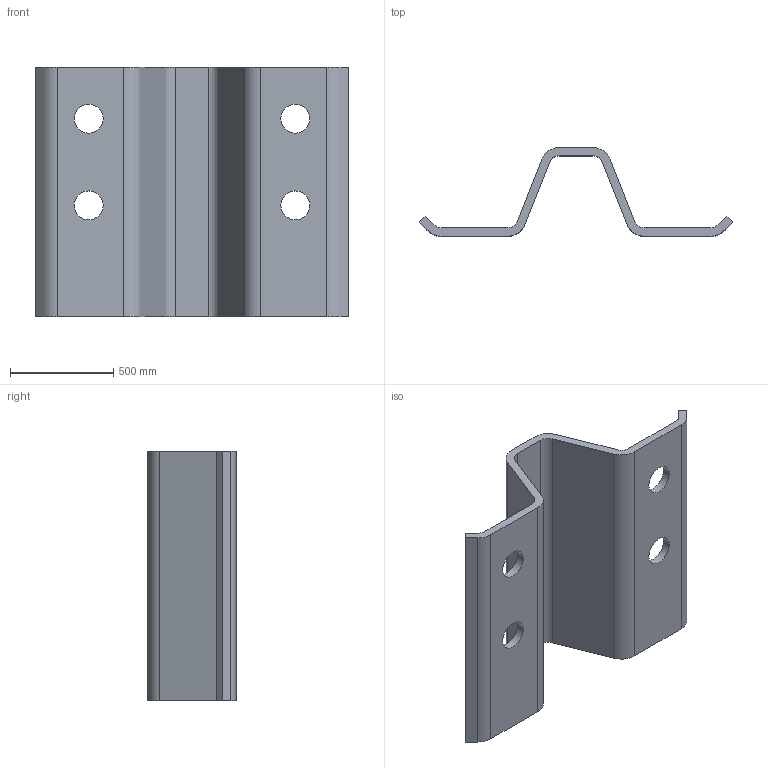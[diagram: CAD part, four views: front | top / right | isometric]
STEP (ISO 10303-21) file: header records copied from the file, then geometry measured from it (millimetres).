
FILE_DESCRIPTION(/* description */ (''),/* implementation_level */ '2;1');
FILE_NAME(/* name */ 'ZC140.stp',/* time_stamp */ '2024-10-31T15:17:02+01:00',/* author */ ('woriedl'),/* organization */ (''),/* preprocessor_version */ 'ST-DEVELOPER v20',/* originating_system */ 'AutoCAD Mechanical',/* authorisation */ '');
FILE_SCHEMA (('AUTOMOTIVE_DESIGN { 1 0 10303 214 3 1 1 }'));
Length unit declared in the file: centimetre
Products named in the file (1): Product
Bounding box: 1517.2 x 430 x 1210 mm (x, y, z)
Volume: 95219901.5 mm3; surface area: 5089626.1 mm2
Topology: 1 solids, 1 shells, 34 faces, 96 edges, 64 vertices
Faces by surface type: plane 18, cylinder 16
Full cylindrical faces by diameter (mm): 140 x4
Entity records: 1151 total; most frequent: DIRECTION 198, CARTESIAN_POINT 195, ORIENTED_EDGE 192, EDGE_CURVE 96, AXIS2_PLACEMENT_3D 67, LINE 64, VECTOR 64, VERTEX_POINT 64
